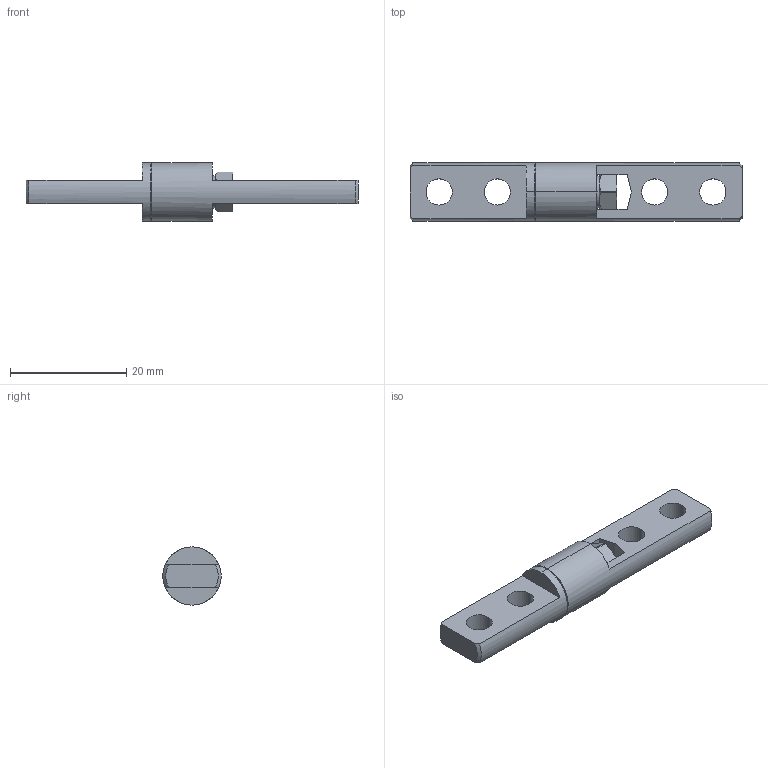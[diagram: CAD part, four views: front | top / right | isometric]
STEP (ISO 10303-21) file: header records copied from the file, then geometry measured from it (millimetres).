
FILE_DESCRIPTION (( 'STEP AP203' ), '1' );
FILE_NAME ('XG11-074-3.STEP', '2025-07-04T05:54:11', ( '微软用户' ), ( '微软中国' ), 'SwSTEP 2.0', 'SolidWorks 2024', '' );
FILE_SCHEMA (( 'CONFIG_CONTROL_DESIGN' ));
Length unit declared in the file: millimetre
Products named in the file (1): XG11-074-3
Bounding box: 57 x 10 x 10 mm (x, y, z)
Volume: 2405 mm3; surface area: 1900.3 mm2
Topology: 1 solids, 1 shells, 50 faces, 139 edges, 89 vertices
Faces by surface type: plane 21, cylinder 19, cone 6, torus 4
Entity records: 1755 total; most frequent: CARTESIAN_POINT 351, DIRECTION 280, ORIENTED_EDGE 278, EDGE_CURVE 139, AXIS2_PLACEMENT_3D 106, VERTEX_POINT 89, LINE 68, VECTOR 68
